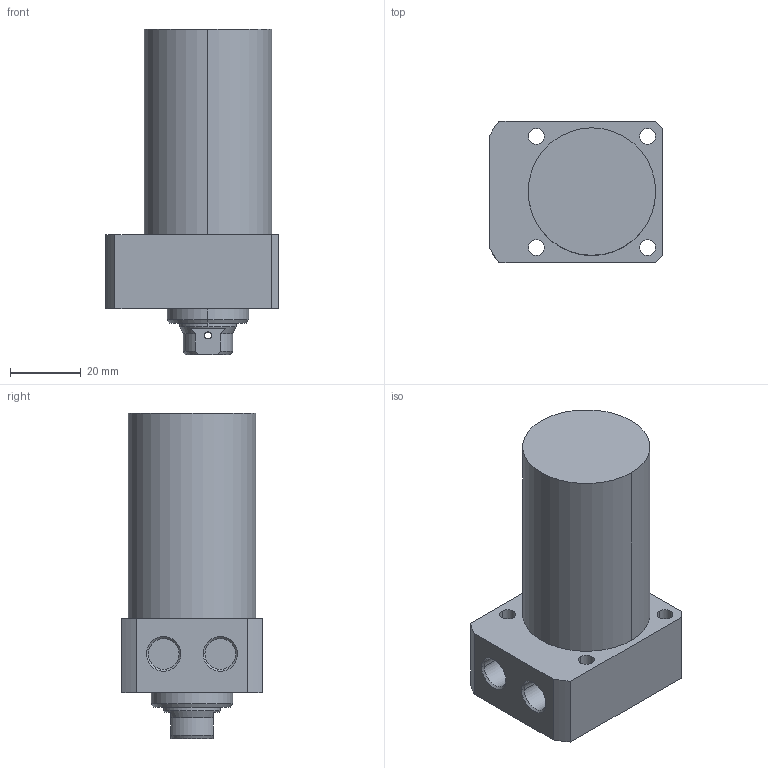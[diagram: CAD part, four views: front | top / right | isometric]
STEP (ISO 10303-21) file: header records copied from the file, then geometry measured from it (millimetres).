
FILE_DESCRIPTION((' '),'2;1');
FILE_NAME( 'TLLR-036CB-050.STEP.stp', '2025-10-24T16:35:46', (' '), ('--- Datakit www.datakit.com---'), ' Datakit CrossCadWare V2024.1 Dec 21 2023', 'Mastercam 2025', ' ');
FILE_SCHEMA(('AUTOMOTIVE_DESIGN { 1 0 10303 214 1 1 1 1 }'));
Length unit declared in the file: millimetre
Products named in the file (1): TLLR-036CB-050
Bounding box: 49 x 40 x 92 mm (x, y, z)
Volume: 99718.1 mm3; surface area: 16672 mm2
Topology: 1 solids, 1 shells, 65 faces, 192 edges, 133 vertices
Faces by surface type: cylinder 32, plane 19, cone 14
Entity records: 2878 total; most frequent: CARTESIAN_POINT 1013, DIRECTION 410, ORIENTED_EDGE 380, EDGE_CURVE 190, AXIS2_PLACEMENT_3D 170, VERTEX_POINT 133, CIRCLE 104, EDGE_LOOP 83
